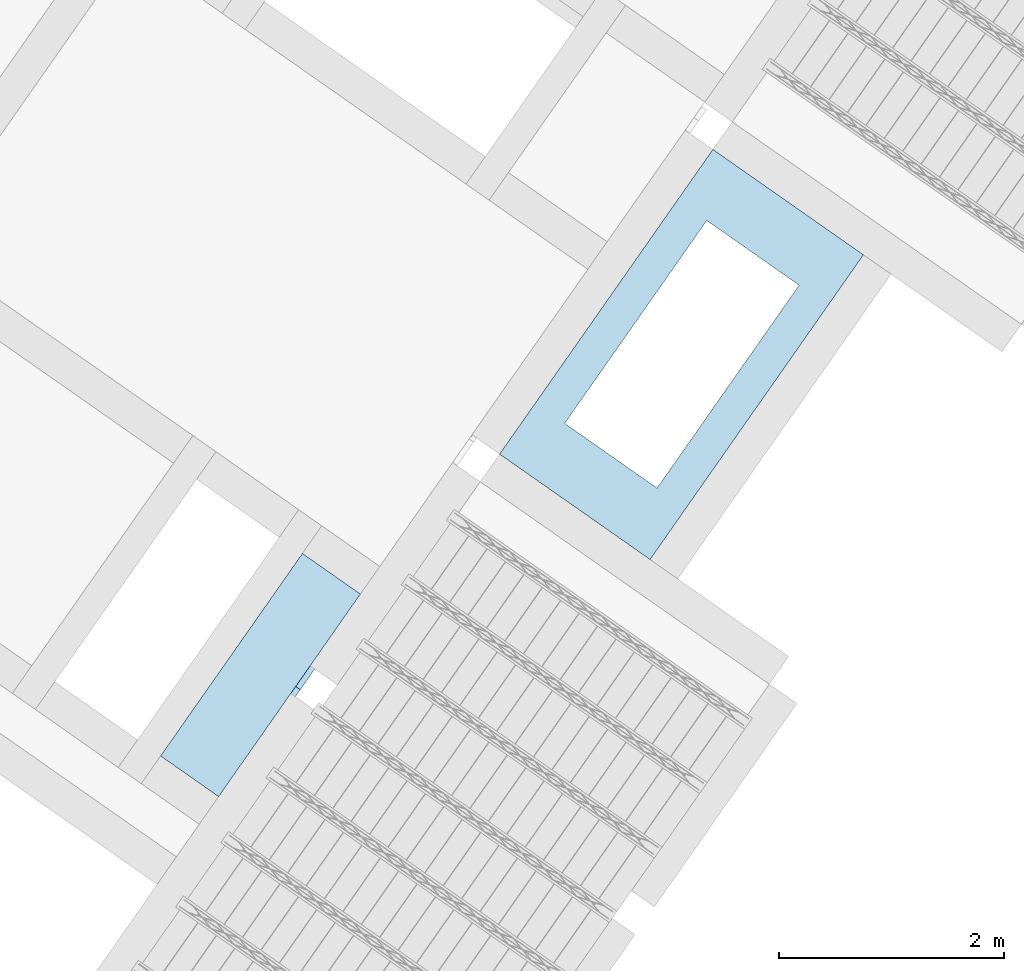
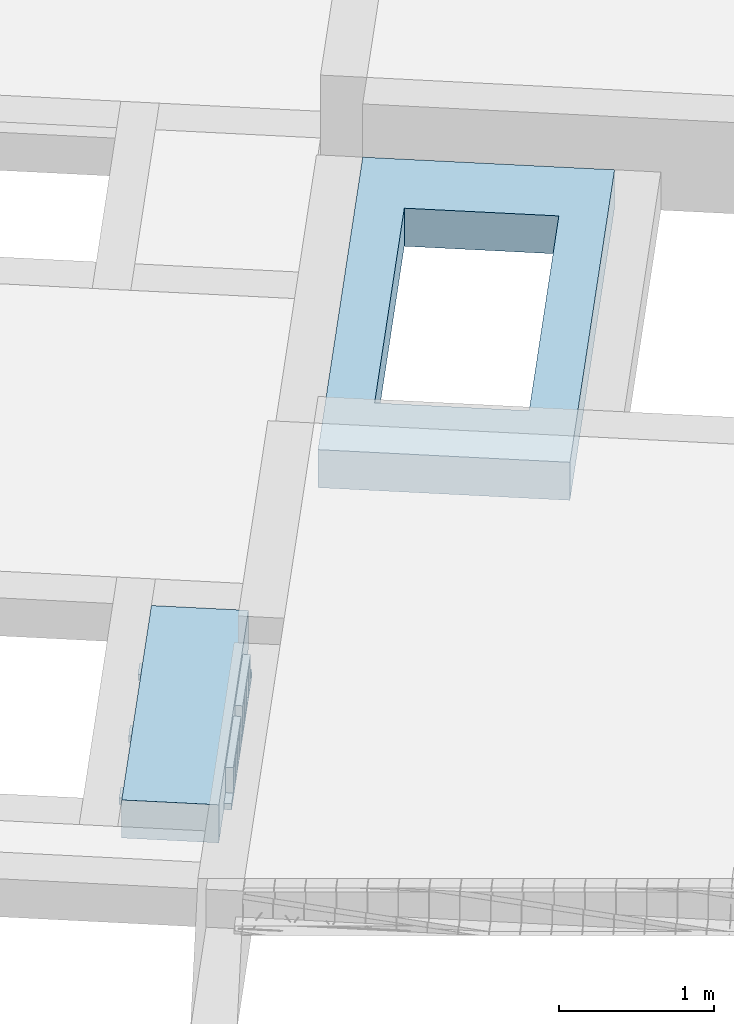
# One storey, part 30 of 46: 2 slabs.
"""IFC2X3 building model written with IfcOpenShell, lengths in metres."""

from ifc_helpers import new_model, entity, si_unit, converted_unit, derived_unit, direction, frame, frame_2d, origin, origin_2d_with_axis, place, context, subcontext, project, spatial, polyline, rectangle, circle, outline, extrude, type_object, element, save


model = new_model("IFC2X3")

# Units and contexts
model_context = context("Model", 3, precision=1e-05, world=origin(), true_north=direction((6.123031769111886e-17, 1.0)))
body_context = subcontext(model_context, "Body", "Model", "MODEL_VIEW")
ifc_project = project(units=[si_unit("LENGTHUNIT", "METRE"), si_unit("AREAUNIT", "SQUARE_METRE"), si_unit("VOLUMEUNIT", "CUBIC_METRE"), converted_unit("PLANEANGLEUNIT", "DEGREE", entity("IfcPlaneAngleMeasure", 0.017453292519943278), si_unit("PLANEANGLEUNIT", "RADIAN"), dimensions=[0, 0, 0, 0, 0, 0, 0]), si_unit("MASSUNIT", "GRAM", prefix="KILO"), derived_unit("MASSDENSITYUNIT", [(si_unit("MASSUNIT", "GRAM", prefix="KILO"), 1), (si_unit("LENGTHUNIT", "METRE"), -3)]), derived_unit("IONCONCENTRATIONUNIT", [(si_unit("MASSUNIT", "GRAM", prefix="KILO"), 1), (si_unit("LENGTHUNIT", "METRE"), -3)]), derived_unit("MOMENTOFINERTIAUNIT", [(si_unit("LENGTHUNIT", "METRE"), 4)]), si_unit("TIMEUNIT", "SECOND"), si_unit("FREQUENCYUNIT", "HERTZ"), si_unit("THERMODYNAMICTEMPERATUREUNIT", "DEGREE_CELSIUS"), derived_unit("THERMALTRANSMITTANCEUNIT", [(si_unit("MASSUNIT", "GRAM", prefix="KILO"), 1), (si_unit("THERMODYNAMICTEMPERATUREUNIT", "KELVIN"), -1), (si_unit("TIMEUNIT", "SECOND"), -3)]), derived_unit("THERMALCONDUCTANCEUNIT", [(si_unit("MASSUNIT", "GRAM", prefix="KILO"), 1), (si_unit("THERMODYNAMICTEMPERATUREUNIT", "KELVIN"), -1), (si_unit("TIMEUNIT", "SECOND"), -3), (si_unit("LENGTHUNIT", "METRE"), 1)]), derived_unit("VOLUMETRICFLOWRATEUNIT", [(si_unit("LENGTHUNIT", "METRE", prefix="DECI"), 3), (si_unit("TIMEUNIT", "SECOND"), -1)]), derived_unit("MASSFLOWRATEUNIT", [(si_unit("MASSUNIT", "GRAM", prefix="KILO"), 1), (si_unit("TIMEUNIT", "SECOND"), -1)]), derived_unit("ROTATIONALFREQUENCYUNIT", [(si_unit("TIMEUNIT", "SECOND"), -1)]), si_unit("ELECTRICCURRENTUNIT", "AMPERE"), si_unit("ELECTRICVOLTAGEUNIT", "VOLT"), si_unit("POWERUNIT", "WATT"), si_unit("FORCEUNIT", "NEWTON", prefix="KILO"), si_unit("ILLUMINANCEUNIT", "LUX"), si_unit("LUMINOUSFLUXUNIT", "LUMEN"), si_unit("LUMINOUSINTENSITYUNIT", "CANDELA"), si_unit("ENERGYUNIT", "JOULE"), derived_unit("USERDEFINED", [(si_unit("MASSUNIT", "GRAM", prefix="KILO"), -1), (si_unit("LENGTHUNIT", "METRE"), -2), (si_unit("TIMEUNIT", "SECOND"), 3), (si_unit("LUMINOUSFLUXUNIT", "LUMEN"), 1)]), derived_unit("USERDEFINED", [(si_unit("MASSUNIT", "GRAM", prefix="KILO"), 1), (si_unit("TIMEUNIT", "SECOND"), -3), (si_unit("LENGTHUNIT", "METRE"), 3), (si_unit("ELECTRICCURRENTUNIT", "AMPERE"), -2)]), derived_unit("SOUNDPOWERUNIT", [(si_unit("MASSUNIT", "GRAM", prefix="KILO"), 1), (si_unit("TIMEUNIT", "SECOND"), -3), (si_unit("LENGTHUNIT", "METRE"), 2)]), derived_unit("SOUNDPRESSUREUNIT", [(si_unit("MASSUNIT", "GRAM", prefix="KILO"), 1), (si_unit("LENGTHUNIT", "METRE"), -1), (si_unit("TIMEUNIT", "SECOND"), -2)]), derived_unit("LINEARVELOCITYUNIT", [(si_unit("LENGTHUNIT", "METRE"), 1), (si_unit("TIMEUNIT", "SECOND"), -1)]), si_unit("PRESSUREUNIT", "PASCAL"), derived_unit("USERDEFINED", [(si_unit("MASSUNIT", "GRAM", prefix="KILO"), 1), (si_unit("LENGTHUNIT", "METRE"), -2), (si_unit("TIMEUNIT", "SECOND"), -2)]), derived_unit("LINEARFORCEUNIT", [(si_unit("MASSUNIT", "GRAM", prefix="KILO"), 1), (si_unit("TIMEUNIT", "SECOND"), -2)]), derived_unit("PLANARFORCEUNIT", [(si_unit("MASSUNIT", "GRAM", prefix="KILO"), 1), (si_unit("LENGTHUNIT", "METRE"), -1), (si_unit("TIMEUNIT", "SECOND"), -2)]), derived_unit("SPECIFICHEATCAPACITYUNIT", [(si_unit("THERMODYNAMICTEMPERATUREUNIT", "KELVIN"), -1), (si_unit("LENGTHUNIT", "METRE"), 2), (si_unit("TIMEUNIT", "SECOND"), -2)]), derived_unit("HEATFLUXDENSITYUNIT", [(si_unit("MASSUNIT", "GRAM", prefix="KILO"), 1), (si_unit("TIMEUNIT", "SECOND"), -3)]), derived_unit("HEATINGVALUEUNIT", [(si_unit("LENGTHUNIT", "METRE"), 2), (si_unit("TIMEUNIT", "SECOND"), -2)]), derived_unit("VAPORPERMEABILITYUNIT", [(si_unit("LENGTHUNIT", "METRE"), -1), (si_unit("TIMEUNIT", "SECOND"), 1)]), derived_unit("DYNAMICVISCOSITYUNIT", [(si_unit("MASSUNIT", "GRAM", prefix="KILO"), 1), (si_unit("TIMEUNIT", "SECOND"), -1), (si_unit("LENGTHUNIT", "METRE"), -1)]), derived_unit("THERMALEXPANSIONCOEFFICIENTUNIT", [(si_unit("THERMODYNAMICTEMPERATUREUNIT", "KELVIN"), -1)]), derived_unit("MODULUSOFELASTICITYUNIT", [(si_unit("MASSUNIT", "GRAM", prefix="KILO"), 1), (si_unit("LENGTHUNIT", "METRE"), -1), (si_unit("TIMEUNIT", "SECOND"), -2)]), derived_unit("ISOTHERMALMOISTURECAPACITYUNIT", [(si_unit("MASSUNIT", "GRAM", prefix="KILO"), -1), (si_unit("LENGTHUNIT", "METRE"), 3)]), derived_unit("MOISTUREDIFFUSIVITYUNIT", [(si_unit("TIMEUNIT", "SECOND"), -1), (si_unit("LENGTHUNIT", "METRE"), 2)]), derived_unit("MASSPERLENGTHUNIT", [(si_unit("MASSUNIT", "GRAM", prefix="KILO"), 1), (si_unit("LENGTHUNIT", "METRE"), -1)]), derived_unit("THERMALRESISTANCEUNIT", [(si_unit("MASSUNIT", "GRAM", prefix="KILO"), -1), (si_unit("TIMEUNIT", "SECOND"), 3), (si_unit("THERMODYNAMICTEMPERATUREUNIT", "KELVIN"), 1)]), derived_unit("ACCELERATIONUNIT", [(si_unit("LENGTHUNIT", "METRE"), 1), (si_unit("TIMEUNIT", "SECOND"), -2)]), derived_unit("ANGULARVELOCITYUNIT", [(si_unit("TIMEUNIT", "SECOND"), -1), (si_unit("PLANEANGLEUNIT", "RADIAN"), 1)]), derived_unit("LINEARSTIFFNESSUNIT", [(si_unit("MASSUNIT", "GRAM", prefix="KILO"), 1), (si_unit("TIMEUNIT", "SECOND"), -2)]), derived_unit("WARPINGCONSTANTUNIT", [(si_unit("LENGTHUNIT", "METRE"), 6)]), derived_unit("LINEARMOMENTUNIT", [(si_unit("MASSUNIT", "GRAM", prefix="KILO"), 1), (si_unit("LENGTHUNIT", "METRE"), 1), (si_unit("TIMEUNIT", "SECOND"), -2)]), derived_unit("TORQUEUNIT", [(si_unit("MASSUNIT", "GRAM", prefix="KILO"), 1), (si_unit("LENGTHUNIT", "METRE"), 2), (si_unit("TIMEUNIT", "SECOND"), -2)])], contexts=[model_context])

# Site, building, storey
site_placement = place(None, origin())
site = spatial("IfcSite", under=ifc_project, at=site_placement, Name="Default", CompositionType="ELEMENT")
building_placement = place(site_placement, origin())
building = spatial("IfcBuilding", under=site, at=building_placement, CompositionType="ELEMENT")
storey_placement = place(building_placement, frame((0.0, 0.0, 99.52000000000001)))
storey = spatial("IfcBuildingStorey", under=building, at=storey_placement, Name="F1", CompositionType="ELEMENT", Elevation=99.52000000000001)

# Slabs
slab_type_1 = type_object("IfcSlabType", Name="Forma directa:DirectShapeType 1092", PredefinedType="FLOOR")
slab_1_placement = place(storey_placement, origin())
element("IfcSlab", 1, at=slab_1_placement, inside=storey, type_object=slab_type_1, Name="Paño 1 (30 cm)", ObjectType="Losas macizas: 30", PredefinedType="FLOOR", context=body_context, shape_type="SweptSolid", body=[
    extrude(outline(polyline([(-0.6539999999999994, -1.7134999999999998), (0.9810000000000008, -1.7134999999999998), (0.9809999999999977, 1.5964999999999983), (-0.6540000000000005, 1.5964999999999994), (-0.6539999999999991, 0.23400000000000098), (-0.6539999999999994, -1.7134999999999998)]), holes=[polyline([(0.6671304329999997, 1.0466293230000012), (0.6671304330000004, -1.1563706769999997), (-0.33586956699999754, -1.1563706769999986), (-0.33586956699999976, 1.0466293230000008), (0.6671304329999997, 1.0466293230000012)])]), frame((9.62501539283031, 2.364762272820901, -0.21999999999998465), z_axis=(0.0, 0.0, 1.0), x_axis=(0.8191520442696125, -0.5735764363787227, 0.0)), (0.0, 0.0, 1.0), 0.30000000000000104),
])
slab_type_2 = type_object("IfcSlabType", Name="Paño 11 (30 cm)", PredefinedType="FLOOR")
slab_2_placement = place(storey_placement, origin())
element("IfcSlab", 2, at=slab_2_placement, inside=storey, type_object=slab_type_2, Name="Paño 11 (30 cm)", ObjectType="Covicsa Armada(25+5)", PredefinedType="FLOOR", context=body_context, shape_type="SweptSolid", body=[
    extrude(rectangle(XDim=0.7303695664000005, YDim=0.11999999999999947, at=frame_2d((4.440892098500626e-16, 3.226585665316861e-16), x_axis=(1.0, 0.0))), frame((5.598460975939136, -1.1729972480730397, -0.3000000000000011), z_axis=(0.0, 0.0, 1.0), x_axis=(0.8191520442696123, -0.5735764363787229, 0.0)), (0.0, 0.0, 1.0), 0.04999999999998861),
    extrude(rectangle(XDim=0.7303695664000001, YDim=0.11999999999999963, at=frame_2d((4.996003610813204e-16, 3.0184188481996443e-16), x_axis=(1.0, 0.0))), frame((5.999964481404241, -0.5995908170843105, -0.3000000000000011), z_axis=(0.0, 0.0, 1.0), x_axis=(0.8191520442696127, -0.5735764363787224, 0.0)), (0.0, 0.0, 1.0), 0.0499999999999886),
    extrude(rectangle(XDim=0.7303695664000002, YDim=0.11999999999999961, at=frame_2d((4.163336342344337e-16, 3.400058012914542e-16), x_axis=(1.0, 0.0))), frame((6.401467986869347, -0.026184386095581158, -0.3000000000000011), z_axis=(0.0, 0.0, 1.0), x_axis=(0.8191520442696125, -0.5735764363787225, 0.0)), (0.0, 0.0, 1.0), 0.04999999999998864),
    extrude(rectangle(XDim=0.630369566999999, YDim=2.200354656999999, at=frame_2d((-0.1050615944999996, -0.056715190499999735), x_axis=(1.0, 0.0))), frame((6.097805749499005, -0.6430283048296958, -0.30000000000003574), z_axis=(0.0, 0.0, 1.0), x_axis=(0.8191520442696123, -0.5735764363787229, 0.0)), (0.0, 0.0, 1.0), 0.3000000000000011),
    extrude(circle(Radius=0.0025, at=origin_2d_with_axis()), frame((5.857294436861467, -1.3981822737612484, -0.2750000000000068), z_axis=(-0.8191520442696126, 0.5735764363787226, 0.0), x_axis=(-0.5735764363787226, -0.8191520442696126, 0.0)), (0.0, 0.0, 1.0), 0.6823695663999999),
    extrude(circle(Radius=0.0025, at=origin_2d_with_axis()), frame((5.455109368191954, -1.0726213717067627, -0.050000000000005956), z_axis=(0.8191520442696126, -0.5735764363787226, 0.0), x_axis=(-0.5735764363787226, -0.8191520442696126, 0.0)), (0.0, 0.0, 1.0), 0.35000000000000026),
    extrude(circle(Radius=0.0025, at=origin_2d_with_axis()), frame((5.782600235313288, -1.3458808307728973, -0.2750000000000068), z_axis=(-0.3145304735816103, 0.389334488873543, 0.8657304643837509), x_axis=(-0.7778747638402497, -0.6284193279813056, 0.0)), (0.0, 0.0, 1.0), 0.2598961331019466),
    extrude(circle(Radius=0.0025, at=origin_2d_with_axis()), frame((5.577812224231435, -1.202486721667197, -0.2750000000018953), z_axis=(0.47343050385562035, -0.1624017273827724, 0.8657304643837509), x_axis=(-0.3244721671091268, -0.9458952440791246, 0.0)), (0.0, 0.0, 1.0), 0.25989613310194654),
    extrude(circle(Radius=0.0025, at=origin_2d_with_axis()), frame((5.577812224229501, -1.2024867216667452, -0.2750000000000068), z_axis=(-0.3145304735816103, 0.389334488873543, 0.8657304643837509), x_axis=(-0.7778747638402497, -0.6284193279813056, 0.0)), (0.0, 0.0, 1.0), 0.2598961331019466),
    extrude(circle(Radius=0.0025, at=origin_2d_with_axis()), frame((5.373024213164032, -1.0590926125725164, -0.2750000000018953), z_axis=(0.47343050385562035, -0.1624017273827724, 0.8657304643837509), x_axis=(-0.3244721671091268, -0.9458952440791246, 0.0)), (0.0, 0.0, 1.0), 0.25989613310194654),
    extrude(circle(Radius=0.0025, at=origin_2d_with_axis()), frame((5.898591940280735, -1.3392033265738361, -0.2750000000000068), z_axis=(-0.8191520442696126, 0.5735764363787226, 0.0), x_axis=(-0.5735764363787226, -0.8191520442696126, 0.0)), (0.0, 0.0, 1.0), 0.6823695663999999),
    extrude(circle(Radius=0.0025, at=origin_2d_with_axis()), frame((5.823897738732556, -1.286901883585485, -0.2750000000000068), z_axis=(-0.47343050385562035, 0.1624017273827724, 0.8657304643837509), x_axis=(-0.3244721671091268, -0.9458952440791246, 0.0)), (0.0, 0.0, 1.0), 0.25989613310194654),
    extrude(circle(Radius=0.0025, at=origin_2d_with_axis()), frame((5.619109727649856, -1.143507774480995, -0.2750000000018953), z_axis=(0.3145304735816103, -0.389334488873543, 0.8657304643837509), x_axis=(-0.7778747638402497, -0.6284193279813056, 0.0)), (0.0, 0.0, 1.0), 0.2598961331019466),
    extrude(circle(Radius=0.0025, at=origin_2d_with_axis()), frame((5.61910972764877, -1.143507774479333, -0.2750000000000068), z_axis=(-0.47343050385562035, 0.1624017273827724, 0.8657304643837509), x_axis=(-0.3244721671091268, -0.9458952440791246, 0.0)), (0.0, 0.0, 1.0), 0.25989613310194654),
    extrude(circle(Radius=0.0025, at=origin_2d_with_axis()), frame((5.414321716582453, -1.0001136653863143, -0.2750000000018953), z_axis=(0.3145304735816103, -0.389334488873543, 0.8657304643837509), x_axis=(-0.7778747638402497, -0.6284193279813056, 0.0)), (0.0, 0.0, 1.0), 0.2598961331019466),
    extrude(circle(Radius=0.0025, at=origin_2d_with_axis()), frame((6.258797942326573, -0.82477584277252, -0.2750000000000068), z_axis=(-0.8191520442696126, 0.5735764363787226, 0.0), x_axis=(-0.5735764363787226, -0.8191520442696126, 0.0)), (0.0, 0.0, 1.0), 0.6823695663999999),
    extrude(circle(Radius=0.0025, at=origin_2d_with_axis()), frame((5.856612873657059, -0.4992149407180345, -0.050000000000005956), z_axis=(0.8191520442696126, -0.5735764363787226, 0.0), x_axis=(-0.5735764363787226, -0.8191520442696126, 0.0)), (0.0, 0.0, 1.0), 0.35000000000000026),
    extrude(circle(Radius=0.0025, at=origin_2d_with_axis()), frame((6.1841037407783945, -0.7724743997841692, -0.2750000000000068), z_axis=(-0.3145304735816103, 0.389334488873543, 0.8657304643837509), x_axis=(-0.7778747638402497, -0.6284193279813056, 0.0)), (0.0, 0.0, 1.0), 0.2598961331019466),
    extrude(circle(Radius=0.0025, at=origin_2d_with_axis()), frame((5.97931572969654, -0.6290802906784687, -0.2750000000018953), z_axis=(0.47343050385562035, -0.1624017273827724, 0.8657304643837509), x_axis=(-0.3244721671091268, -0.9458952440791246, 0.0)), (0.0, 0.0, 1.0), 0.25989613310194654),
    extrude(circle(Radius=0.0025, at=origin_2d_with_axis()), frame((5.979315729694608, -0.629080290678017, -0.2750000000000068), z_axis=(-0.3145304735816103, 0.389334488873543, 0.8657304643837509), x_axis=(-0.7778747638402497, -0.6284193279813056, 0.0)), (0.0, 0.0, 1.0), 0.2598961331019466),
    extrude(circle(Radius=0.0025, at=origin_2d_with_axis()), frame((5.7745277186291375, -0.4856861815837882, -0.2750000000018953), z_axis=(0.47343050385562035, -0.1624017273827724, 0.8657304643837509), x_axis=(-0.3244721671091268, -0.9458952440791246, 0.0)), (0.0, 0.0, 1.0), 0.25989613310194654),
    extrude(circle(Radius=0.0025, at=origin_2d_with_axis()), frame((6.30009544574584, -0.765796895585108, -0.2750000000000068), z_axis=(-0.8191520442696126, 0.5735764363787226, 0.0), x_axis=(-0.5735764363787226, -0.8191520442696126, 0.0)), (0.0, 0.0, 1.0), 0.6823695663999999),
    extrude(circle(Radius=0.0025, at=origin_2d_with_axis()), frame((6.225401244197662, -0.7134954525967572, -0.2750000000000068), z_axis=(-0.47343050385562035, 0.1624017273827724, 0.8657304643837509), x_axis=(-0.3244721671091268, -0.9458952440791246, 0.0)), (0.0, 0.0, 1.0), 0.25989613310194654),
    extrude(circle(Radius=0.0025, at=origin_2d_with_axis()), frame((6.020613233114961, -0.5701013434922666, -0.2750000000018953), z_axis=(0.3145304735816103, -0.389334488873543, 0.8657304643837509), x_axis=(-0.7778747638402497, -0.6284193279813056, 0.0)), (0.0, 0.0, 1.0), 0.2598961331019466),
    extrude(circle(Radius=0.0025, at=origin_2d_with_axis()), frame((6.020613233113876, -0.5701013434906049, -0.2750000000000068), z_axis=(-0.47343050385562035, 0.1624017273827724, 0.8657304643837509), x_axis=(-0.3244721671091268, -0.9458952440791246, 0.0)), (0.0, 0.0, 1.0), 0.25989613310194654),
    extrude(circle(Radius=0.0025, at=origin_2d_with_axis()), frame((5.815825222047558, -0.426707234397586, -0.2750000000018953), z_axis=(0.3145304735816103, -0.389334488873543, 0.8657304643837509), x_axis=(-0.7778747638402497, -0.6284193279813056, 0.0)), (0.0, 0.0, 1.0), 0.2598961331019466),
    extrude(circle(Radius=0.0025, at=origin_2d_with_axis()), frame((6.660301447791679, -0.25136941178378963, -0.2750000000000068), z_axis=(-0.8191520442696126, 0.5735764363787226, 0.0), x_axis=(-0.5735764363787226, -0.8191520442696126, 0.0)), (0.0, 0.0, 1.0), 0.6823695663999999),
    extrude(circle(Radius=0.0025, at=origin_2d_with_axis()), frame((6.258116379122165, 0.0741914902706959, -0.050000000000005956), z_axis=(0.8191520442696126, -0.5735764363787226, 0.0), x_axis=(-0.5735764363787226, -0.8191520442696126, 0.0)), (0.0, 0.0, 1.0), 0.35000000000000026),
    extrude(circle(Radius=0.0025, at=origin_2d_with_axis()), frame((6.585607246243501, -0.19906796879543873, -0.2750000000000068), z_axis=(-0.3145304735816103, 0.389334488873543, 0.8657304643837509), x_axis=(-0.7778747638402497, -0.6284193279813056, 0.0)), (0.0, 0.0, 1.0), 0.2598961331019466),
    extrude(circle(Radius=0.0025, at=origin_2d_with_axis()), frame((6.380819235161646, -0.0556738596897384, -0.2750000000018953), z_axis=(0.47343050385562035, -0.1624017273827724, 0.8657304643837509), x_axis=(-0.3244721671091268, -0.9458952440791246, 0.0)), (0.0, 0.0, 1.0), 0.25989613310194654),
    extrude(circle(Radius=0.0025, at=origin_2d_with_axis()), frame((6.380819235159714, -0.05567385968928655, -0.2750000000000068), z_axis=(-0.3145304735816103, 0.389334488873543, 0.8657304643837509), x_axis=(-0.7778747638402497, -0.6284193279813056, 0.0)), (0.0, 0.0, 1.0), 0.2598961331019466),
    extrude(circle(Radius=0.0025, at=origin_2d_with_axis()), frame((6.176031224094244, 0.08772024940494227, -0.2750000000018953), z_axis=(0.47343050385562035, -0.1624017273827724, 0.8657304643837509), x_axis=(-0.3244721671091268, -0.9458952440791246, 0.0)), (0.0, 0.0, 1.0), 0.25989613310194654),
    extrude(circle(Radius=0.0025, at=origin_2d_with_axis()), frame((6.701598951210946, -0.19239046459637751, -0.2750000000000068), z_axis=(-0.8191520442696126, 0.5735764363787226, 0.0), x_axis=(-0.5735764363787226, -0.8191520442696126, 0.0)), (0.0, 0.0, 1.0), 0.6823695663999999),
    extrude(circle(Radius=0.0025, at=origin_2d_with_axis()), frame((6.626904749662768, -0.1400890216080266, -0.2750000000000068), z_axis=(-0.47343050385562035, 0.1624017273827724, 0.8657304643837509), x_axis=(-0.3244721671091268, -0.9458952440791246, 0.0)), (0.0, 0.0, 1.0), 0.25989613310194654),
    extrude(circle(Radius=0.0025, at=origin_2d_with_axis()), frame((6.422116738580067, 0.003305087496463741, -0.2750000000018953), z_axis=(0.3145304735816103, -0.389334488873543, 0.8657304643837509), x_axis=(-0.7778747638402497, -0.6284193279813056, 0.0)), (0.0, 0.0, 1.0), 0.2598961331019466),
    extrude(circle(Radius=0.0025, at=origin_2d_with_axis()), frame((6.422116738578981, 0.003305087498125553, -0.2750000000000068), z_axis=(-0.47343050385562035, 0.1624017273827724, 0.8657304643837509), x_axis=(-0.3244721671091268, -0.9458952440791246, 0.0)), (0.0, 0.0, 1.0), 0.25989613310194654),
    extrude(circle(Radius=0.0025, at=origin_2d_with_axis()), frame((6.2173287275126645, 0.14669919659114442, -0.2750000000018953), z_axis=(0.3145304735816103, -0.389334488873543, 0.8657304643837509), x_axis=(-0.7778747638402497, -0.6284193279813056, 0.0)), (0.0, 0.0, 1.0), 0.2598961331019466),
    extrude(outline(polyline([(-0.28999999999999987, -0.12500000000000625), (0.28999999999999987, -0.12500000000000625), (0.28999999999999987, 0.12500000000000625), (-0.28999999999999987, 0.12500000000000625), (-0.28999999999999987, -0.12500000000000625)]), holes=[polyline([(0.27000000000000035, -0.10499999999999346), (0.1549999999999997, -0.10499999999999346), (0.1549999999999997, 0.10499999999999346), (0.27000000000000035, 0.10499999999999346), (0.27000000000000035, 0.042499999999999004), (0.27000000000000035, -0.10499999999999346)]), polyline([(0.009999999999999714, -0.10499999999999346), (0.009999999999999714, 0.10499999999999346), (0.13500000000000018, 0.10499999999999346), (0.13500000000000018, -0.10499999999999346), (0.009999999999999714, -0.10499999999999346)]), polyline([(-0.13500000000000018, 0.10499999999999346), (-0.009999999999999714, 0.10499999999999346), (-0.009999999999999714, -0.10499999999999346), (-0.13500000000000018, -0.10499999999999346), (-0.13500000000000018, 0.10499999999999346)]), polyline([(-0.27000000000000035, -0.10499999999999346), (-0.27000000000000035, 0.042499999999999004), (-0.27000000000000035, 0.10499999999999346), (-0.1549999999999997, 0.10499999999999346), (-0.1549999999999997, -0.10499999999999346), (-0.27000000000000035, -0.10499999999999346)])]), frame((5.93861994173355, -0.9839080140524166, -0.17499999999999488), z_axis=(0.8191520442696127, -0.5735764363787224, 0.0), x_axis=(-0.5735764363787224, -0.8191520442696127, 0.0)), (0.0, 0.0, 1.0), 0.19499999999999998),
    extrude(outline(polyline([(-0.28999999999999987, -0.12500000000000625), (0.28999999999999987, -0.12500000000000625), (0.28999999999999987, 0.12500000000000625), (-0.28999999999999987, 0.12500000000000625), (-0.28999999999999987, -0.12500000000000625)]), holes=[polyline([(0.27000000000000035, -0.10499999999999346), (0.1549999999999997, -0.10499999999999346), (0.1549999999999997, 0.10499999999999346), (0.27000000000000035, 0.10499999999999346), (0.27000000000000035, 0.042499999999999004), (0.27000000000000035, -0.10499999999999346)]), polyline([(0.009999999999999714, -0.10499999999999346), (0.009999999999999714, 0.10499999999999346), (0.13500000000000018, 0.10499999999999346), (0.13500000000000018, -0.10499999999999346), (0.009999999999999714, -0.10499999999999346)]), polyline([(-0.13500000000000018, 0.10499999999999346), (-0.009999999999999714, 0.10499999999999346), (-0.009999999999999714, -0.10499999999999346), (-0.13500000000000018, -0.10499999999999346), (-0.13500000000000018, 0.10499999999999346)]), polyline([(-0.27000000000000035, -0.10499999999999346), (-0.27000000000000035, 0.042499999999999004), (-0.27000000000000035, 0.10499999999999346), (-0.1549999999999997, 0.10499999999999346), (-0.1549999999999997, -0.10499999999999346), (-0.27000000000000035, -0.10499999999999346)])]), frame((5.774789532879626, -0.8691927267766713, -0.17499999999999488), z_axis=(0.8191520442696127, -0.5735764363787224, 0.0), x_axis=(-0.5735764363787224, -0.8191520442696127, 0.0)), (0.0, 0.0, 1.0), 0.19499999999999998),
    extrude(outline(polyline([(-0.2899999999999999, -0.12500000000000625), (0.28999999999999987, -0.12500000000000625), (0.28999999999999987, 0.12500000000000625), (-0.2899999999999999, 0.12500000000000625), (-0.2899999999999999, -0.12500000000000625)]), holes=[polyline([(0.27000000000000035, -0.10499999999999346), (0.15499999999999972, -0.10499999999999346), (0.15499999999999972, 0.10499999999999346), (0.27000000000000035, 0.10499999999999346), (0.27000000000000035, 0.042499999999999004), (0.27000000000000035, -0.10499999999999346)]), polyline([(0.009999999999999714, -0.10499999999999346), (0.009999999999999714, 0.10499999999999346), (0.13500000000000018, 0.10499999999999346), (0.13500000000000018, -0.10499999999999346), (0.009999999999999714, -0.10499999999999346)]), polyline([(-0.13500000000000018, 0.10499999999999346), (-0.009999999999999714, 0.10499999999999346), (-0.009999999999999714, -0.10499999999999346), (-0.13500000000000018, -0.10499999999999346), (-0.13500000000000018, 0.10499999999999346)]), polyline([(-0.2700000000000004, -0.10499999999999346), (-0.2700000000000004, 0.042499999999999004), (-0.2700000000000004, 0.10499999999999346), (-0.15499999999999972, 0.10499999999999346), (-0.15499999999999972, -0.10499999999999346), (-0.2700000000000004, -0.10499999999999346)])]), frame((5.610959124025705, -0.7544774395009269, -0.17499999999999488), z_axis=(0.8191520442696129, -0.5735764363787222, 0.0), x_axis=(-0.5735764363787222, -0.8191520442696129, 0.0)), (0.0, 0.0, 1.0), 0.19499999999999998),
    extrude(outline(polyline([(-0.2899999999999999, -0.12500000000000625), (0.28999999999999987, -0.12500000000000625), (0.28999999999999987, 0.12500000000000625), (-0.2899999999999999, 0.12500000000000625), (-0.2899999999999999, -0.12500000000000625)]), holes=[polyline([(0.27000000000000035, -0.10499999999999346), (0.15499999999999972, -0.10499999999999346), (0.15499999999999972, 0.10499999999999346), (0.27000000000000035, 0.10499999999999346), (0.27000000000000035, 0.042499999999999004), (0.27000000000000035, -0.10499999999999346)]), polyline([(0.00999999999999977, -0.10499999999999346), (0.00999999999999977, 0.10499999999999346), (0.13500000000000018, 0.10499999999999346), (0.13500000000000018, -0.10499999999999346), (0.00999999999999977, -0.10499999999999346)]), polyline([(-0.1350000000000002, 0.10499999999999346), (-0.00999999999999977, 0.10499999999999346), (-0.00999999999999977, -0.10499999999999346), (-0.1350000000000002, -0.10499999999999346), (-0.1350000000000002, 0.10499999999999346)]), polyline([(-0.2700000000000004, -0.10499999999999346), (-0.2700000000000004, 0.042499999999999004), (-0.2700000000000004, 0.10499999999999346), (-0.15499999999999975, 0.10499999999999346), (-0.15499999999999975, -0.10499999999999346), (-0.2700000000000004, -0.10499999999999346)])]), frame((6.340123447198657, -0.4105015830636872, -0.17499999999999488), z_axis=(0.8191520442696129, -0.5735764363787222, 0.0), x_axis=(-0.5735764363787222, -0.8191520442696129, 0.0)), (0.0, 0.0, 1.0), 0.19499999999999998),
    extrude(outline(polyline([(-0.2899999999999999, -0.12500000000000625), (0.2899999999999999, -0.12500000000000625), (0.2899999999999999, 0.12500000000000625), (-0.2899999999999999, 0.12500000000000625), (-0.2899999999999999, -0.12500000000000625)]), holes=[polyline([(0.2700000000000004, -0.10499999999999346), (0.15499999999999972, -0.10499999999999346), (0.15499999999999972, 0.10499999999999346), (0.2700000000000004, 0.10499999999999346), (0.2700000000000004, 0.042499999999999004), (0.2700000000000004, -0.10499999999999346)]), polyline([(0.009999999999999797, -0.10499999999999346), (0.009999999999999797, 0.10499999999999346), (0.13500000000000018, 0.10499999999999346), (0.13500000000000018, -0.10499999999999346), (0.009999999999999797, -0.10499999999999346)]), polyline([(-0.1350000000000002, 0.10499999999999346), (-0.00999999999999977, 0.10499999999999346), (-0.009999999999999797, -0.10499999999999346), (-0.1350000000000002, -0.10499999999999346), (-0.1350000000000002, 0.10499999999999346)]), polyline([(-0.2700000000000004, -0.10499999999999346), (-0.2700000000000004, 0.042499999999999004), (-0.2700000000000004, 0.10499999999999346), (-0.15499999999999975, 0.10499999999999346), (-0.15499999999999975, -0.10499999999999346), (-0.2700000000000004, -0.10499999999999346)])]), frame((6.176293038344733, -0.29578629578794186, -0.17499999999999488), z_axis=(0.8191520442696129, -0.5735764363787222, 0.0), x_axis=(-0.5735764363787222, -0.8191520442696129, 0.0)), (0.0, 0.0, 1.0), 0.19499999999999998),
    extrude(outline(polyline([(-0.2899999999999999, -0.12500000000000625), (0.2899999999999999, -0.12500000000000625), (0.2899999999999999, 0.12500000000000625), (-0.2899999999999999, 0.12500000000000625), (-0.2899999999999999, -0.12500000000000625)]), holes=[polyline([(0.2700000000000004, -0.10499999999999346), (0.15499999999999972, -0.10499999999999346), (0.15499999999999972, 0.10499999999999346), (0.2700000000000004, 0.10499999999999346), (0.2700000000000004, 0.042499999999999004), (0.2700000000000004, -0.10499999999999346)]), polyline([(0.009999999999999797, -0.10499999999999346), (0.009999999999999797, 0.10499999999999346), (0.1350000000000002, 0.10499999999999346), (0.1350000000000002, -0.10499999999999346), (0.009999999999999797, -0.10499999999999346)]), polyline([(-0.1350000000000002, 0.10499999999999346), (-0.00999999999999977, 0.10499999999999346), (-0.009999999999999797, -0.10499999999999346), (-0.1350000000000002, -0.10499999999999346), (-0.1350000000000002, 0.10499999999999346)]), polyline([(-0.2700000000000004, -0.10499999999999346), (-0.2700000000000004, 0.042499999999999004), (-0.2700000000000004, 0.10499999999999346), (-0.15499999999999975, 0.10499999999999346), (-0.15499999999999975, -0.10499999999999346), (-0.2700000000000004, -0.10499999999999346)])]), frame((6.012462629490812, -0.18107100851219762, -0.17499999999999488), z_axis=(0.8191520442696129, -0.5735764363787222, 0.0), x_axis=(-0.5735764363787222, -0.8191520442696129, 0.0)), (0.0, 0.0, 1.0), 0.19499999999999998),
])

save(model, "model.ifc")
